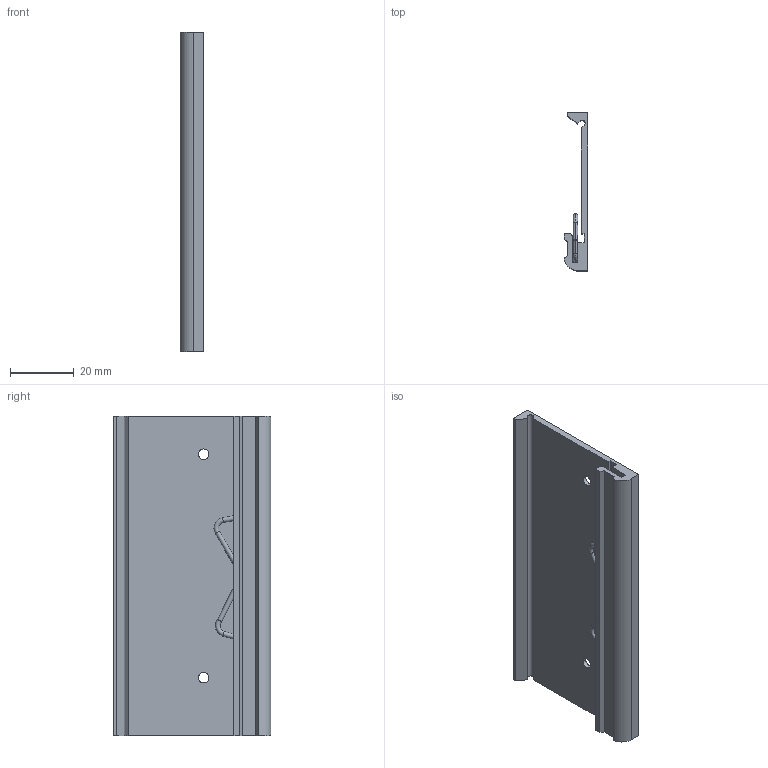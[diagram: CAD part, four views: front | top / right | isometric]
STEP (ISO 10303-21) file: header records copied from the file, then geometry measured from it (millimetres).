
FILE_DESCRIPTION((''),'2;1');
FILE_NAME('DIN-RAIL-4SLOT','2007-01-26T',('chrisj'),(''),'PRO/ENGINEER BY PARAMETRIC TECHNOLOGY CORPORATION, 2006080','PRO/ENGINEER BY PARAMETRIC TECHNOLOGY CORPORATION, 2006080','');
FILE_SCHEMA(('AUTOMOTIVE_DESIGN_CC2 { 1 2 10303 214 -1 1 5 2 }'));
Length unit declared in the file: inch
Products named in the file (1): DIN-RAIL-4SLOT
Bounding box: 7.49 x 49.33 x 100 mm (x, y, z)
Volume: 14026.7 mm3; surface area: 14861.6 mm2
Topology: 2 solids, 2 shells, 64 faces, 152 edges, 96 vertices
Faces by surface type: cylinder 27, plane 27, torus 10
Entity records: 1998 total; most frequent: CARTESIAN_POINT 428, DIRECTION 332, ORIENTED_EDGE 304, EDGE_CURVE 152, AXIS2_PLACEMENT_3D 124, VERTEX_POINT 96, VECTOR 84, LINE 84
